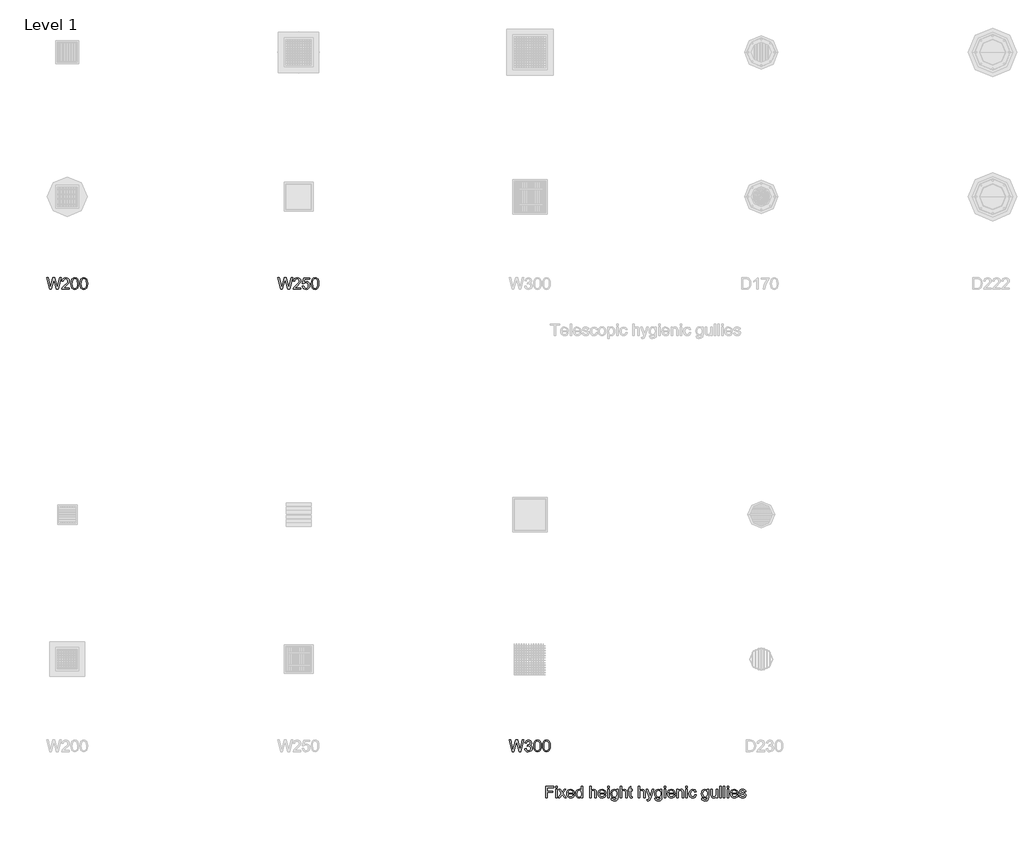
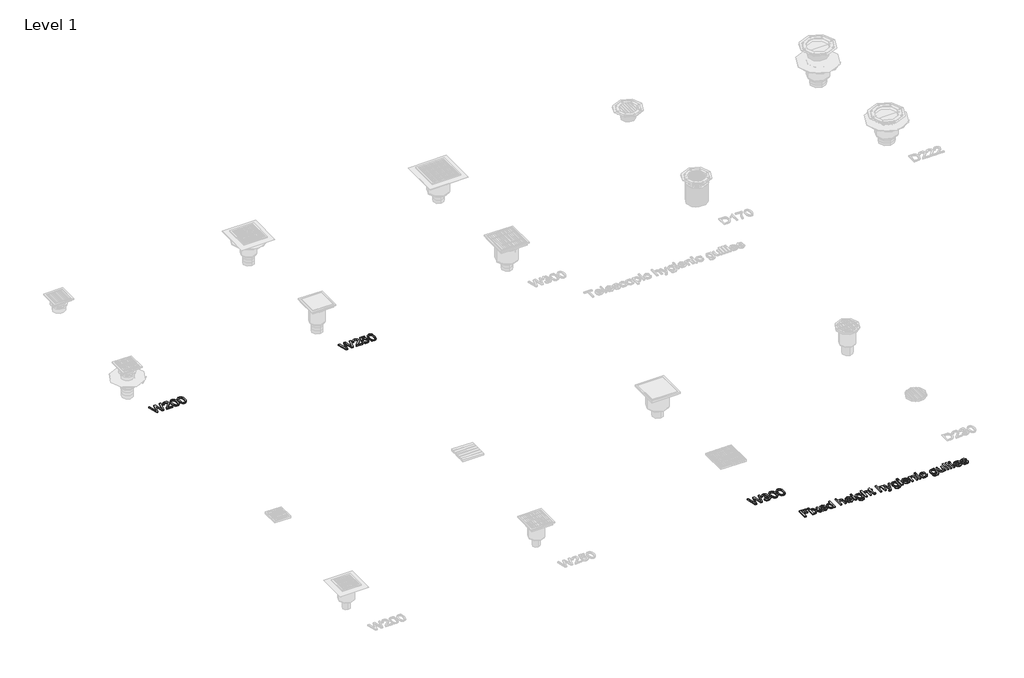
# One storey, part 2 of 4: 4 proxies.
"""IFC4 building model written with IfcOpenShell, lengths in millimetres."""

from ifc_helpers import new_model, si_unit, origin, origin_with_axes, place, context, project, spatial, polyline, outline, extrude, element, save

model = new_model("IFC4")

# Units and contexts
model_context = context("Model", 3, world=origin())
ifc_project = project(units=[si_unit("LENGTHUNIT", "METRE", prefix="MILLI")], contexts=[model_context])

# Site, building, storey
site = spatial("IfcSite", under=ifc_project)
building = spatial("IfcBuilding", under=site)
storey = spatial("IfcBuildingStorey", under=building, Name="Level 1", Elevation=0.0)

# Proxies
placement = place(None, origin())
element("IfcBuildingElementProxy", 1, Name="100mm ACO", ObjectType="100mm ACO", at=placement, inside=storey, context=model_context, shape_type="SweptSolid", body=[
    extrude(outline(polyline([(204.6296296, -6911.1111111), (150.9259259, -6911.1111111), (150.9259259, -6942.5925926), (197.2222222, -6942.5925926), (197.2222222, -6953.7037037), (150.9259259, -6953.7037037), (150.9259259, -7000.0), (137.962963, -7000.0), (137.962963, -6900.0), (204.6296296, -6900.0), (204.6296296, -6911.1111111)])), origin_with_axes(), (0.0, 0.0, 1.0), 10.0),
    extrude(outline(polyline([(234.2592593, -7000.0), (221.2962963, -7000.0), (221.2962963, -6927.7777778), (234.2592593, -6927.7777778), (234.2592593, -7000.0)])), origin_with_axes(), (0.0, 0.0, 1.0), 10.0),
    extrude(outline(polyline([(234.2592593, -6912.962963), (221.2962963, -6912.962963), (221.2962963, -6900.0), (234.2592593, -6900.0), (234.2592593, -6912.962963)])), origin_with_axes(), (0.0, 0.0, 1.0), 10.0),
    extrude(outline(polyline([(312.037037, -7000.0), (298.9872685, -7000.0), (278.7326389, -6971.7013889), (258.4780093, -7000.0), (245.3703704, -7000.0), (272.1354167, -6962.5868056), (247.2222222, -6927.7777778), (260.2719907, -6927.7777778), (278.6747685, -6953.443287), (297.0486111, -6927.7777778), (310.1851852, -6927.7777778), (285.2430556, -6962.6157407), (312.037037, -7000.0)])), origin_with_axes(), (0.0, 0.0, 1.0), 10.0),
    extrude(outline(polyline([(384.2592593, -6966.6666667), (330.5555556, -6966.6666667), (332.6280382, -6977.7922454), (337.3408565, -6985.9375), (344.1225405, -6990.9288194), (352.4016204, -6992.5925926), (364.0769676, -6988.9033565), (371.2962963, -6977.7777778), (384.2592593, -6979.2824074), (379.8828125, -6988.9033565), (372.9456019, -6996.0069444), (363.7008102, -7000.390625), (352.4016204, -7001.8518519), (337.8146701, -6999.3453414), (326.8084491, -6991.8258102), (319.8965567, -6979.9660012), (317.5925926, -6964.4386574), (319.8133681, -6948.900463), (326.4756944, -6936.6030093), (337.1744792, -6928.5951968), (351.5046296, -6925.9259259), (366.724537, -6929.3836806), (379.1521991, -6941.1603009), (382.9824942, -6951.6963252), (384.2592593, -6966.6666667)]), holes=[polyline([(371.2962963, -6957.4074074), (369.212963, -6947.2511574), (364.4675926, -6940.3935185), (351.1863426, -6935.1851852), (343.3304398, -6936.7332176), (337.0081019, -6941.3773148), (330.5555556, -6957.4074074), (371.2962963, -6957.4074074)])]), origin_with_axes(), (0.0, 0.0, 1.0), 10.0),
    extrude(outline(polyline([(458.3333333, -7000.0), (445.3703704, -7000.0), (445.3703704, -6991.8402778), (437.0153356, -6999.3489583), (425.6365741, -7001.8518519), (413.7695312, -6999.2115162), (404.0364583, -6991.2905093), (397.5368924, -6979.1594329), (395.3703704, -6963.8888889), (397.4464699, -6948.1481481), (403.6747685, -6936.1111111), (413.3101852, -6928.4722222), (425.6076389, -6925.9259259), (436.8923611, -6928.2118056), (445.1099537, -6935.0694444), (445.3703704, -6900.0), (458.3333333, -6900.0), (458.3333333, -7000.0)]), holes=[polyline([(427.1412037, -6992.5925926), (434.1941551, -6990.8854167), (440.0752315, -6985.7638889), (444.0465856, -6977.1701389), (445.3703704, -6965.0462963), (440.5237269, -6943.287037), (434.624566, -6937.2106481), (426.6203704, -6935.1851852), (418.6740451, -6937.1672454), (412.9484954, -6943.1134259), (408.3333333, -6963.9178241), (410.8217593, -6979.6730324), (417.7662037, -6989.3518519), (427.1412037, -6992.5925926)])]), origin_with_axes(), (0.0, 0.0, 1.0), 10.0),
    extrude(outline(polyline([(575.0, -7000.0), (562.037037, -7000.0), (562.037037, -6953.2986111), (558.3478009, -6939.7135417), (547.337963, -6935.1851852), (534.4039352, -6940.5237269), (530.1287616, -6947.9564525), (528.7037037, -6959.5775463), (528.7037037, -7000.0), (515.7407407, -7000.0), (515.7407407, -6900.0), (528.7037037, -6900.0), (528.7037037, -6935.8217593), (538.4042245, -6928.3998843), (550.2604167, -6925.9259259), (563.5416667, -6928.7905093), (572.4392361, -6937.6012731), (575.0, -6954.1087963), (575.0, -7000.0)])), origin_with_axes(), (0.0, 0.0, 1.0), 10.0),
    extrude(outline(polyline([(656.4814815, -6966.6666667), (602.7777778, -6966.6666667), (604.8502604, -6977.7922454), (609.5630787, -6985.9375), (616.3447627, -6990.9288194), (624.6238426, -6992.5925926), (636.2991898, -6988.9033565), (643.5185185, -6977.7777778), (656.4814815, -6979.2824074), (652.1050347, -6988.9033565), (645.1678241, -6996.0069444), (635.9230324, -7000.390625), (624.6238426, -7001.8518519), (610.0368924, -6999.3453414), (599.0306713, -6991.8258102), (592.1187789, -6979.9660012), (589.8148148, -6964.4386574), (592.0355903, -6948.900463), (598.6979167, -6936.6030093), (609.3967014, -6928.5951968), (623.7268519, -6925.9259259), (638.9467593, -6929.3836806), (651.3744213, -6941.1603009), (655.2047164, -6951.6963252), (656.4814815, -6966.6666667)]), holes=[polyline([(643.5185185, -6957.4074074), (641.4351852, -6947.2511574), (636.6898148, -6940.3935185), (623.4085648, -6935.1851852), (615.552662, -6936.7332176), (609.2303241, -6941.3773148), (602.7777778, -6957.4074074), (643.5185185, -6957.4074074)])]), origin_with_axes(), (0.0, 0.0, 1.0), 10.0),
    extrude(outline(polyline([(684.2592593, -7000.0), (671.2962963, -7000.0), (671.2962963, -6927.7777778), (684.2592593, -6927.7777778), (684.2592593, -7000.0)])), origin_with_axes(), (0.0, 0.0, 1.0), 10.0),
    extrude(outline(polyline([(684.2592593, -6912.962963), (671.2962963, -6912.962963), (671.2962963, -6900.0), (684.2592593, -6900.0), (684.2592593, -6912.962963)])), origin_with_axes(), (0.0, 0.0, 1.0), 10.0),
    extrude(outline(polyline([(762.037037, -6989.3518519), (758.984375, -7011.9936343), (748.119213, -7023.6255787), (729.4560185, -7027.7777778), (718.2400174, -7026.3708044), (709.0711806, -7022.1498843), (702.9622396, -7014.7243924), (700.9259259, -7003.7037037), (713.8888889, -7005.7581019), (718.4606481, -7015.3211806), (729.6585648, -7018.5185185), (742.96875, -7014.8292824), (748.1336806, -7005.8449074), (749.0740741, -6991.2326389), (740.2994792, -6997.8081597), (729.4849537, -7000.0), (717.0934606, -6997.3885995), (707.4074074, -6989.5543981), (701.1574074, -6977.7416088), (699.0740741, -6963.1944444), (701.0561343, -6948.5532407), (707.0023148, -6936.5740741), (716.4496528, -6928.587963), (728.9351852, -6925.9259259), (740.0101273, -6928.3058449), (748.8136574, -6935.4456019), (749.0740741, -6927.7777778), (762.037037, -6927.7777778), (762.037037, -6989.3518519)]), holes=[polyline([(731.4236111, -6990.7407407), (738.635706, -6989.134838), (744.994213, -6984.3171296), (749.4429977, -6975.7233796), (750.9259259, -6962.7893519), (749.5117187, -6951.0018808), (745.2690972, -6942.3177083), (738.9431424, -6936.968316), (731.2789352, -6935.1851852), (723.5568576, -6937.0117187), (717.4045139, -6942.4913194), (713.3789062, -6951.1465567), (712.037037, -6962.5), (713.4440104, -6975.2170139), (717.6649306, -6983.9699074), (723.9185475, -6989.0480324), (731.4236111, -6990.7407407)])]), origin_with_axes(), (0.0, 0.0, 1.0), 10.0),
    extrude(outline(polyline([(839.8148148, -7000.0), (826.8518519, -7000.0), (826.8518519, -6953.2986111), (823.1626157, -6939.7135417), (812.1527778, -6935.1851852), (799.21875, -6940.5237269), (794.9435764, -6947.9564525), (793.5185185, -6959.5775463), (793.5185185, -7000.0), (780.5555556, -7000.0), (780.5555556, -6900.0), (793.5185185, -6900.0), (793.5185185, -6935.8217593), (803.2190394, -6928.3998843), (815.0752315, -6925.9259259), (828.3564815, -6928.7905093), (837.2540509, -6937.6012731), (839.8148148, -6954.1087963), (839.8148148, -7000.0)])), origin_with_axes(), (0.0, 0.0, 1.0), 10.0),
    extrude(outline(polyline([(886.1111111, -7001.0127315), (877.025463, -7001.8518519), (865.4369213, -6998.9728009), (860.9953704, -6991.6666667), (860.1851852, -6979.3402778), (860.1851852, -6937.037037), (850.9259259, -6937.037037), (850.9259259, -6927.7777778), (860.1851852, -6927.7777778), (860.1851852, -6909.4328704), (873.1481481, -6901.8518519), (873.1481481, -6927.7777778), (884.2592593, -6927.7777778), (884.2592593, -6937.037037), (873.1481481, -6937.037037), (873.1481481, -6981.9444444), (874.1898148, -6990.162037), (879.4849537, -6992.5925926), (884.5196759, -6992.5925926), (886.1111111, -7001.0127315)])), origin_with_axes(), (0.0, 0.0, 1.0), 10.0),
    extrude(outline(polyline([(995.3703704, -7000.0), (982.4074074, -7000.0), (982.4074074, -6953.2986111), (978.7181713, -6939.7135417), (967.7083333, -6935.1851852), (954.7743056, -6940.5237269), (950.4991319, -6947.9564525), (949.0740741, -6959.5775463), (949.0740741, -7000.0), (936.1111111, -7000.0), (936.1111111, -6900.0), (949.0740741, -6900.0), (949.0740741, -6935.8217593), (958.7745949, -6928.3998843), (970.630787, -6925.9259259), (983.912037, -6928.7905093), (992.8096065, -6937.6012731), (995.3703704, -6954.1087963), (995.3703704, -7000.0)])), origin_with_axes(), (0.0, 0.0, 1.0), 10.0),
    extrude(outline(polyline([(1071.2962963, -6927.7777778), (1044.1261574, -7001.9386574), (1035.083912, -7021.2818287), (1028.9966725, -7026.1537905), (1020.775463, -7027.7777778), (1013.1944444, -7026.6203704), (1012.037037, -7016.6666667), (1018.5763889, -7018.5185185), (1027.4305556, -7014.5543981), (1033.3043981, -7001.0706019), (1006.4814815, -6927.7777778), (1018.2002315, -6927.7777778), (1035.8217593, -6973.8715278), (1039.1493056, -6984.8090278), (1044.068287, -6971.1226852), (1059.6064815, -6927.7777778), (1071.2962963, -6927.7777778)])), origin_with_axes(), (0.0, 0.0, 1.0), 10.0),
    extrude(outline(polyline([(1141.6666667, -6989.3518519), (1138.6140046, -7011.9936343), (1127.7488426, -7023.6255787), (1109.0856481, -7027.7777778), (1097.869647, -7026.3708044), (1088.7008102, -7022.1498843), (1082.5918692, -7014.7243924), (1080.5555556, -7003.7037037), (1093.5185185, -7005.7581019), (1098.0902778, -7015.3211806), (1109.2881944, -7018.5185185), (1122.5983796, -7014.8292824), (1127.7633102, -7005.8449074), (1128.7037037, -6991.2326389), (1119.9291088, -6997.8081597), (1109.1145833, -7000.0), (1096.7230903, -6997.3885995), (1087.037037, -6989.5543981), (1080.787037, -6977.7416088), (1078.7037037, -6963.1944444), (1080.6857639, -6948.5532407), (1086.6319444, -6936.5740741), (1096.0792824, -6928.587963), (1108.5648148, -6925.9259259), (1119.6397569, -6928.3058449), (1128.443287, -6935.4456019), (1128.7037037, -6927.7777778), (1141.6666667, -6927.7777778), (1141.6666667, -6989.3518519)]), holes=[polyline([(1111.0532407, -6990.7407407), (1118.2653356, -6989.134838), (1124.6238426, -6984.3171296), (1129.0726273, -6975.7233796), (1130.5555556, -6962.7893519), (1129.1413484, -6951.0018808), (1124.8987269, -6942.3177083), (1118.572772, -6936.968316), (1110.9085648, -6935.1851852), (1103.1864873, -6937.0117187), (1097.0341435, -6942.4913194), (1093.0085359, -6951.1465567), (1091.6666667, -6962.5), (1093.07364, -6975.2170139), (1097.2945602, -6983.9699074), (1103.5481771, -6989.0480324), (1111.0532407, -6990.7407407)])]), origin_with_axes(), (0.0, 0.0, 1.0), 10.0),
    extrude(outline(polyline([(1173.1481481, -7000.0), (1160.1851852, -7000.0), (1160.1851852, -6927.7777778), (1173.1481481, -6927.7777778), (1173.1481481, -7000.0)])), origin_with_axes(), (0.0, 0.0, 1.0), 10.0),
    extrude(outline(polyline([(1173.1481481, -6912.962963), (1160.1851852, -6912.962963), (1160.1851852, -6900.0), (1173.1481481, -6900.0), (1173.1481481, -6912.962963)])), origin_with_axes(), (0.0, 0.0, 1.0), 10.0),
    extrude(outline(polyline([(1254.6296296, -6966.6666667), (1200.9259259, -6966.6666667), (1202.9984086, -6977.7922454), (1207.7112269, -6985.9375), (1214.4929109, -6990.9288194), (1222.7719907, -6992.5925926), (1234.447338, -6988.9033565), (1241.6666667, -6977.7777778), (1254.6296296, -6979.2824074), (1250.2531829, -6988.9033565), (1243.3159722, -6996.0069444), (1234.0711806, -7000.390625), (1222.7719907, -7001.8518519), (1208.1850405, -6999.3453414), (1197.1788194, -6991.8258102), (1190.2669271, -6979.9660012), (1187.962963, -6964.4386574), (1190.1837384, -6948.900463), (1196.8460648, -6936.6030093), (1207.5448495, -6928.5951968), (1221.875, -6925.9259259), (1237.0949074, -6929.3836806), (1249.5225694, -6941.1603009), (1253.3528646, -6951.6963252), (1254.6296296, -6966.6666667)]), holes=[polyline([(1241.6666667, -6957.4074074), (1239.5833333, -6947.2511574), (1234.837963, -6940.3935185), (1221.556713, -6935.1851852), (1213.7008102, -6936.7332176), (1207.3784722, -6941.3773148), (1200.9259259, -6957.4074074), (1241.6666667, -6957.4074074)])]), origin_with_axes(), (0.0, 0.0, 1.0), 10.0),
    extrude(outline(polyline([(1328.7037037, -7000.0), (1315.7407407, -7000.0), (1315.7407407, -6955.0347222), (1311.8778935, -6939.4386574), (1301.1284722, -6935.1851852), (1291.1024306, -6937.9050926), (1284.3894676, -6945.5729167), (1282.4074074, -6959.5775463), (1282.4074074, -7000.0), (1269.4444444, -7000.0), (1269.4444444, -6927.7777778), (1280.5555556, -6927.7777778), (1280.5555556, -6937.818287), (1290.4513889, -6928.8917824), (1303.7037037, -6925.9259259), (1315.0752315, -6927.9803241), (1323.8715278, -6934.1290509), (1327.8790509, -6942.8674769), (1328.7037037, -6955.4108796), (1328.7037037, -7000.0)])), origin_with_axes(), (0.0, 0.0, 1.0), 10.0),
    extrude(outline(polyline([(1360.1851852, -7000.0), (1347.2222222, -7000.0), (1347.2222222, -6927.7777778), (1360.1851852, -6927.7777778), (1360.1851852, -7000.0)])), origin_with_axes(), (0.0, 0.0, 1.0), 10.0),
    extrude(outline(polyline([(1360.1851852, -6912.962963), (1347.2222222, -6912.962963), (1347.2222222, -6900.0), (1360.1851852, -6900.0), (1360.1851852, -6912.962963)])), origin_with_axes(), (0.0, 0.0, 1.0), 10.0),
    extrude(outline(polyline([(1439.8148148, -6975.5497685), (1435.7855903, -6987.3553241), (1428.6168981, -6995.5150463), (1419.2925347, -7000.2676505), (1408.7962963, -7001.8518519), (1394.4806134, -6999.2621528), (1383.8252315, -6991.4930556), (1377.2063079, -6979.4487847), (1375.0, -6964.0335648), (1380.0347222, -6941.3483796), (1392.6359954, -6929.3836806), (1408.5358796, -6925.9259259), (1427.9947917, -6931.5827546), (1434.5305266, -6938.566985), (1437.962963, -6948.2060185), (1425.0, -6950.0), (1419.0972222, -6938.9033565), (1408.6805556, -6935.1851852), (1399.7251157, -6937.0695891), (1393.2291667, -6942.7228009), (1389.2795139, -6951.7541956), (1387.962963, -6963.7731481), (1389.2831308, -6976.0018808), (1393.2436343, -6985.083912), (1399.6925637, -6990.7154225), (1408.4780093, -6992.5925926), (1421.0792824, -6987.962963), (1426.8518519, -6974.0740741), (1439.8148148, -6975.5497685)])), origin_with_axes(), (0.0, 0.0, 1.0), 10.0),
    extrude(outline(polyline([(1545.3703704, -6989.3518519), (1542.3177083, -7011.9936343), (1531.4525463, -7023.6255787), (1512.7893519, -7027.7777778), (1501.5733507, -7026.3708044), (1492.4045139, -7022.1498843), (1486.2955729, -7014.7243924), (1484.2592593, -7003.7037037), (1497.2222222, -7005.7581019), (1501.7939815, -7015.3211806), (1512.9918981, -7018.5185185), (1526.3020833, -7014.8292824), (1531.4670139, -7005.8449074), (1532.4074074, -6991.2326389), (1523.6328125, -6997.8081597), (1512.818287, -7000.0), (1500.426794, -6997.3885995), (1490.7407407, -6989.5543981), (1484.4907407, -6977.7416088), (1482.4074074, -6963.1944444), (1484.3894676, -6948.5532407), (1490.3356481, -6936.5740741), (1499.7829861, -6928.587963), (1512.2685185, -6925.9259259), (1523.3434606, -6928.3058449), (1532.1469907, -6935.4456019), (1532.4074074, -6927.7777778), (1545.3703704, -6927.7777778), (1545.3703704, -6989.3518519)]), holes=[polyline([(1514.7569444, -6990.7407407), (1521.9690394, -6989.134838), (1528.3275463, -6984.3171296), (1532.776331, -6975.7233796), (1534.2592593, -6962.7893519), (1532.8450521, -6951.0018808), (1528.6024306, -6942.3177083), (1522.2764757, -6936.968316), (1514.6122685, -6935.1851852), (1506.890191, -6937.0117187), (1500.7378472, -6942.4913194), (1496.7122396, -6951.1465567), (1495.3703704, -6962.5), (1496.7773437, -6975.2170139), (1500.9982639, -6983.9699074), (1507.2518808, -6989.0480324), (1514.7569444, -6990.7407407)])]), origin_with_axes(), (0.0, 0.0, 1.0), 10.0),
    extrude(outline(polyline([(1623.1481481, -7000.0), (1612.037037, -7000.0), (1612.037037, -6989.4965278), (1601.7939815, -6998.7630208), (1588.8310185, -7001.8518519), (1574.7106481, -6998.3362269), (1566.0590278, -6988.6574074), (1563.8888889, -6972.65625), (1563.8888889, -6927.7777778), (1576.8518519, -6927.7777778), (1576.8518519, -6968.75), (1577.7488426, -6982.8414352), (1582.4363426, -6989.84375), (1591.4641204, -6992.5925926), (1604.2100694, -6987.6736111), (1608.6914062, -6980.1215278), (1610.1851852, -6967.3032407), (1610.1851852, -6927.7777778), (1623.1481481, -6927.7777778), (1623.1481481, -7000.0)])), origin_with_axes(), (0.0, 0.0, 1.0), 10.0),
    extrude(outline(polyline([(1654.6296296, -7000.0), (1641.6666667, -7000.0), (1641.6666667, -6900.0), (1654.6296296, -6900.0), (1654.6296296, -7000.0)])), origin_with_axes(), (0.0, 0.0, 1.0), 10.0),
    extrude(outline(polyline([(1686.1111111, -7000.0), (1673.1481481, -7000.0), (1673.1481481, -6900.0), (1686.1111111, -6900.0), (1686.1111111, -7000.0)])), origin_with_axes(), (0.0, 0.0, 1.0), 10.0),
    extrude(outline(polyline([(1717.5925926, -6912.962963), (1704.6296296, -6912.962963), (1704.6296296, -6900.0), (1717.5925926, -6900.0), (1717.5925926, -6912.962963)])), origin_with_axes(), (0.0, 0.0, 1.0), 10.0),
    extrude(outline(polyline([(1717.5925926, -7000.0), (1704.6296296, -7000.0), (1704.6296296, -6927.7777778), (1717.5925926, -6927.7777778), (1717.5925926, -7000.0)])), origin_with_axes(), (0.0, 0.0, 1.0), 10.0),
    extrude(outline(polyline([(1799.0740741, -6966.6666667), (1745.3703704, -6966.6666667), (1747.442853, -6977.7922454), (1752.1556713, -6985.9375), (1758.9373553, -6990.9288194), (1767.2164352, -6992.5925926), (1778.8917824, -6988.9033565), (1786.1111111, -6977.7777778), (1799.0740741, -6979.2824074), (1794.6976273, -6988.9033565), (1787.7604167, -6996.0069444), (1778.515625, -7000.390625), (1767.2164352, -7001.8518519), (1752.629485, -6999.3453414), (1741.6232639, -6991.8258102), (1734.7113715, -6979.9660012), (1732.4074074, -6964.4386574), (1734.6281829, -6948.900463), (1741.2905093, -6936.6030093), (1751.989294, -6928.5951968), (1766.3194444, -6925.9259259), (1781.5393519, -6929.3836806), (1793.9670139, -6941.1603009), (1797.797309, -6951.6963252), (1799.0740741, -6966.6666667)]), holes=[polyline([(1786.1111111, -6957.4074074), (1784.0277778, -6947.2511574), (1779.2824074, -6940.3935185), (1766.0011574, -6935.1851852), (1758.1452546, -6936.7332176), (1751.8229167, -6941.3773148), (1745.3703704, -6957.4074074), (1786.1111111, -6957.4074074)])]), origin_with_axes(), (0.0, 0.0, 1.0), 10.0),
    extrude(outline(polyline([(1854.6296296, -6948.1481481), (1849.8408565, -6938.4259259), (1838.7731481, -6935.1851852), (1827.4594907, -6937.962963), (1823.1481481, -6946.0358796), (1825.9982639, -6953.1828704), (1839.4386574, -6957.0601852), (1857.1614583, -6961.2268519), (1866.2037037, -6967.5491898), (1869.4444444, -6978.8773148), (1867.4334491, -6987.8074363), (1861.400463, -6995.2112269), (1852.0037616, -7000.1916956), (1839.9016204, -7001.8518519), (1827.4269387, -7000.4557292), (1818.0121528, -6996.2673611), (1811.6500289, -6989.2939815), (1808.3333333, -6979.5428241), (1821.2962963, -6977.7777778), (1826.8952546, -6988.9033565), (1839.9016204, -6992.5925926), (1852.1990741, -6988.7586806), (1856.4814815, -6979.4270833), (1854.5572917, -6973.4519676), (1849.7540509, -6970.0810185), (1836.1689815, -6967.1875), (1815.234375, -6959.375), (1810.1851852, -6946.7881944), (1812.0551215, -6938.5018808), (1817.6649306, -6931.8142361), (1826.4359086, -6927.3980035), (1837.7893519, -6925.9259259), (1849.7214988, -6927.2135417), (1858.666088, -6931.0763889), (1864.6231192, -6937.5072338), (1867.5925926, -6946.4988426), (1854.6296296, -6948.1481481)])), origin_with_axes(), (0.0, 0.0, 1.0), 10.0),
])
element("IfcBuildingElementProxy", 2, Name="100mm ACO", ObjectType="100mm ACO", at=placement, inside=storey, context=model_context, shape_type="SweptSolid", body=[
    extrude(outline(polyline([(-51.8518519, -6500.0), (-78.0092593, -6600.0), (-93.8657407, -6600.0), (-113.744213, -6521.1516204), (-115.7407407, -6511.9502315), (-118.75, -6523.8136574), (-139.6990741, -6600.0), (-153.587963, -6600.0), (-179.6296296, -6500.0), (-166.3194444, -6500.0), (-151.1863426, -6565.6828704), (-147.3668981, -6584.6643519), (-142.7083333, -6567.505787), (-123.8425926, -6500.0), (-107.494213, -6500.0), (-93.8078704, -6550.6076389), (-86.3715278, -6586.1111111), (-81.25, -6564.3229167), (-65.2199074, -6500.0), (-51.8518519, -6500.0)])), origin_with_axes(), (0.0, 0.0, 1.0), 10.0),
    extrude(outline(polyline([(1.1863426, -6546.3975694), (9.516059, -6549.6346933), (15.5237269, -6555.4253472), (20.3703704, -6570.9490741), (17.8457755, -6583.2573785), (10.2719907, -6593.1568287), (-0.817419, -6599.6780961), (-13.8888889, -6601.8518519), (-26.1682581, -6599.9348958), (-36.0966435, -6594.1840278), (-43.0230035, -6585.2864583), (-46.2962963, -6573.9293981), (-33.3333333, -6572.2222222), (-26.5046296, -6587.5144676), (-13.4548611, -6592.5925926), (-5.3855613, -6591.0662616), (1.3454861, -6586.4872685), (5.8919271, -6579.6947338), (7.4074074, -6571.5277778), (5.9859664, -6563.7695312), (1.7216435, -6557.4508102), (-4.8357928, -6553.2515914), (-13.1365741, -6551.8518519), (-22.2222222, -6553.7037037), (-20.775463, -6542.5925926), (-12.9050926, -6542.1006944), (-6.4236111, -6539.6990741), (-0.4918981, -6534.2303241), (1.8518519, -6525.4050926), (-2.9369213, -6513.4837963), (-14.0335648, -6509.2592593), (-25.7667824, -6514.0625), (-31.4814815, -6527.7777778), (-44.4444444, -6525.5497685), (-40.6069155, -6514.3627025), (-33.8975694, -6506.3802083), (-24.9529803, -6501.5950521), (-14.4097222, -6500.0), (-2.9441551, -6501.8916377), (6.4525463, -6507.5665509), (12.7242477, -6515.9758391), (14.8148148, -6526.0706019), (11.4076968, -6538.1365741), (1.1863426, -6546.3975694)])), origin_with_axes(), (0.0, 0.0, 1.0), 10.0),
    extrude(outline(polyline([(64.7858796, -6500.0), (79.3818721, -6503.1864873), (89.807581, -6512.7459491), (96.0630064, -6528.6783854), (98.1481481, -6550.9837963), (95.9924769, -6573.4555845), (89.525463, -6589.3084491), (79.0292245, -6598.7160012), (64.7858796, -6601.8518519), (50.2152054, -6598.6725984), (39.807581, -6589.134838), (33.5630064, -6573.2385706), (31.4814815, -6550.9837963), (33.6371528, -6528.515625), (40.1041667, -6512.6157407), (50.5859375, -6503.1539352), (64.7858796, -6500.0)]), holes=[polyline([(64.8148148, -6592.5925926), (73.6545139, -6590.1584201), (80.0347222, -6582.8559028), (83.8975694, -6570.0195312), (85.1851852, -6550.9837963), (82.9282407, -6526.7650463), (76.1140046, -6513.599537), (64.6701389, -6509.2592593), (55.8485243, -6511.7368345), (49.5225694, -6519.1695602), (45.7139757, -6532.0782697), (44.4444444, -6550.9837963), (46.7447917, -6575.0434028), (53.5590278, -6588.2523148), (64.8148148, -6592.5925926)])]), origin_with_axes(), (0.0, 0.0, 1.0), 10.0),
    extrude(outline(polyline([(142.5636574, -6500.0), (157.1596499, -6503.1864873), (167.5853588, -6512.7459491), (173.8407841, -6528.6783854), (175.9259259, -6550.9837963), (173.7702546, -6573.4555845), (167.3032407, -6589.3084491), (156.8070023, -6598.7160012), (142.5636574, -6601.8518519), (127.9929832, -6598.6725984), (117.5853588, -6589.134838), (111.3407841, -6573.2385706), (109.2592593, -6550.9837963), (111.4149306, -6528.515625), (117.8819444, -6512.6157407), (128.3637153, -6503.1539352), (142.5636574, -6500.0)]), holes=[polyline([(142.5925926, -6592.5925926), (151.4322917, -6590.1584201), (157.8125, -6582.8559028), (161.6753472, -6570.0195312), (162.962963, -6550.9837963), (160.7060185, -6526.7650463), (153.8917824, -6513.599537), (142.4479167, -6509.2592593), (133.6263021, -6511.7368345), (127.3003472, -6519.1695602), (123.4917535, -6532.0782697), (122.2222222, -6550.9837963), (124.5225694, -6575.0434028), (131.3368056, -6588.2523148), (142.5925926, -6592.5925926)])]), origin_with_axes(), (0.0, 0.0, 1.0), 10.0),
])
element("IfcBuildingElementProxy", 3, Name="100mm ACO", ObjectType="100mm ACO", at=placement, inside=storey, context=model_context, shape_type="SweptSolid", body=[
    extrude(outline(polyline([(-4051.8518519, -2500.0), (-4078.0092593, -2600.0), (-4093.8657407, -2600.0), (-4113.744213, -2521.1516204), (-4115.7407407, -2511.9502315), (-4118.75, -2523.8136574), (-4139.6990741, -2600.0), (-4153.587963, -2600.0), (-4179.6296296, -2500.0), (-4166.3194444, -2500.0), (-4151.1863426, -2565.6828704), (-4147.3668981, -2584.6643519), (-4142.7083333, -2567.505787), (-4123.8425926, -2500.0), (-4107.494213, -2500.0), (-4093.8078704, -2550.6076389), (-4086.3715278, -2586.1111111), (-4081.25, -2564.3229167), (-4065.2199074, -2500.0), (-4051.8518519, -2500.0)])), origin_with_axes(), (0.0, 0.0, 1.0), 10.0),
    extrude(outline(polyline([(-3981.4814815, -2600.0), (-4048.1481481, -2600.0), (-4042.1875, -2584.4039352), (-4020.1678241, -2562.7893519), (-4002.4016204, -2545.4571759), (-3996.4337384, -2536.4293981), (-3994.4444444, -2527.34375), (-3999.8697917, -2514.380787), (-4013.5706019, -2509.2592593), (-4027.6041667, -2514.3663194), (-4031.8721065, -2520.7356771), (-4033.3333333, -2529.6296296), (-4046.2962963, -2528.2407407), (-4043.1568287, -2516.1385995), (-4036.1111111, -2507.2627315), (-4025.8969907, -2501.8156829), (-4013.2523148, -2500.0), (-3999.89511, -2502.0869502), (-3989.8582176, -2508.3478009), (-3983.5756655, -2517.5600405), (-3981.4814815, -2528.5011574), (-3983.2320602, -2538.4042245), (-3988.4837963, -2548.4375), (-4015.9143519, -2575.9548611), (-4031.4814815, -2590.7407407), (-3981.4814815, -2590.7407407), (-3981.4814815, -2600.0)])), origin_with_axes(), (0.0, 0.0, 1.0), 10.0),
    extrude(outline(polyline([(-3935.2141204, -2500.0), (-3920.6181279, -2503.1864873), (-3910.192419, -2512.7459491), (-3903.9369936, -2528.6783854), (-3901.8518519, -2550.9837963), (-3904.0075231, -2573.4555845), (-3910.474537, -2589.3084491), (-3920.9707755, -2598.7160012), (-3935.2141204, -2601.8518519), (-3949.7847946, -2598.6725984), (-3960.192419, -2589.134838), (-3966.4369936, -2573.2385706), (-3968.5185185, -2550.9837963), (-3966.3628472, -2528.515625), (-3959.8958333, -2512.6157407), (-3949.4140625, -2503.1539352), (-3935.2141204, -2500.0)]), holes=[polyline([(-3935.1851852, -2592.5925926), (-3926.3454861, -2590.1584201), (-3919.9652778, -2582.8559028), (-3916.1024306, -2570.0195312), (-3914.8148148, -2550.9837963), (-3917.0717593, -2526.7650463), (-3923.8859954, -2513.599537), (-3935.3298611, -2509.2592593), (-3944.1514757, -2511.7368345), (-3950.4774306, -2519.1695602), (-3954.2860243, -2532.0782697), (-3955.5555556, -2550.9837963), (-3953.2552083, -2575.0434028), (-3946.4409722, -2588.2523148), (-3935.1851852, -2592.5925926)])]), origin_with_axes(), (0.0, 0.0, 1.0), 10.0),
    extrude(outline(polyline([(-3857.4363426, -2500.0), (-3842.8403501, -2503.1864873), (-3832.4146412, -2512.7459491), (-3826.1592159, -2528.6783854), (-3824.0740741, -2550.9837963), (-3826.2297454, -2573.4555845), (-3832.6967593, -2589.3084491), (-3843.1929977, -2598.7160012), (-3857.4363426, -2601.8518519), (-3872.0070168, -2598.6725984), (-3882.4146412, -2589.134838), (-3888.6592159, -2573.2385706), (-3890.7407407, -2550.9837963), (-3888.5850694, -2528.515625), (-3882.1180556, -2512.6157407), (-3871.6362847, -2503.1539352), (-3857.4363426, -2500.0)]), holes=[polyline([(-3857.4074074, -2592.5925926), (-3848.5677083, -2590.1584201), (-3842.1875, -2582.8559028), (-3838.3246528, -2570.0195312), (-3837.037037, -2550.9837963), (-3839.2939815, -2526.7650463), (-3846.1082176, -2513.599537), (-3857.5520833, -2509.2592593), (-3866.3736979, -2511.7368345), (-3872.6996528, -2519.1695602), (-3876.5082465, -2532.0782697), (-3877.7777778, -2550.9837963), (-3875.4774306, -2575.0434028), (-3868.6631944, -2588.2523148), (-3857.4074074, -2592.5925926)])]), origin_with_axes(), (0.0, 0.0, 1.0), 10.0),
])
element("IfcBuildingElementProxy", 4, Name="100mm ACO", ObjectType="100mm ACO", at=placement, inside=storey, context=model_context, shape_type="SweptSolid", body=[
    extrude(outline(polyline([(-2051.8518519, -2500.0), (-2078.0092593, -2600.0), (-2093.8657407, -2600.0), (-2113.744213, -2521.1516204), (-2115.7407407, -2511.9502315), (-2118.75, -2523.8136574), (-2139.6990741, -2600.0), (-2153.587963, -2600.0), (-2179.6296296, -2500.0), (-2166.3194444, -2500.0), (-2151.1863426, -2565.6828704), (-2147.3668981, -2584.6643519), (-2142.7083333, -2567.505787), (-2123.8425926, -2500.0), (-2107.494213, -2500.0), (-2093.8078704, -2550.6076389), (-2086.3715278, -2586.1111111), (-2081.25, -2564.3229167), (-2065.2199074, -2500.0), (-2051.8518519, -2500.0)])), origin_with_axes(), (0.0, 0.0, 1.0), 10.0),
    extrude(outline(polyline([(-1981.4814815, -2600.0), (-2048.1481481, -2600.0), (-2042.1875, -2584.4039352), (-2020.1678241, -2562.7893519), (-2002.4016204, -2545.4571759), (-1996.4337384, -2536.4293981), (-1994.4444444, -2527.34375), (-1999.8697917, -2514.380787), (-2013.5706019, -2509.2592593), (-2027.6041667, -2514.3663194), (-2031.8721065, -2520.7356771), (-2033.3333333, -2529.6296296), (-2046.2962963, -2528.2407407), (-2043.1568287, -2516.1385995), (-2036.1111111, -2507.2627315), (-2025.8969907, -2501.8156829), (-2013.2523148, -2500.0), (-1999.89511, -2502.0869502), (-1989.8582176, -2508.3478009), (-1983.5756655, -2517.5600405), (-1981.4814815, -2528.5011574), (-1983.2320602, -2538.4042245), (-1988.4837963, -2548.4375), (-2015.9143519, -2575.9548611), (-2031.4814815, -2590.7407407), (-1981.4814815, -2590.7407407), (-1981.4814815, -2600.0)])), origin_with_axes(), (0.0, 0.0, 1.0), 10.0),
    extrude(outline(polyline([(-1951.0416667, -2537.8761574), (-1932.3784722, -2533.3333333), (-1920.8948206, -2535.5577257), (-1910.9809028, -2542.2309028), (-1904.1341146, -2552.6077836), (-1901.8518519, -2565.943287), (-1904.2209201, -2579.7815394), (-1911.328125, -2591.3773148), (-1922.2764757, -2599.2332176), (-1936.1689815, -2601.8518519), (-1947.9094329, -2600.0434028), (-1957.9571759, -2594.6180556), (-1965.198206, -2585.6481481), (-1968.5185185, -2573.2060185), (-1955.5555556, -2572.2222222), (-1948.7847222, -2587.5434028), (-1936.0243056, -2592.5925926), (-1927.4594907, -2590.7190394), (-1920.6886574, -2585.0983796), (-1916.2832755, -2576.7361111), (-1914.8148148, -2566.6377315), (-1916.2868924, -2556.6695602), (-1920.703125, -2549.0451389), (-1927.4341725, -2544.2057292), (-1935.8506944, -2542.5925926), (-1946.1877894, -2544.9435764), (-1953.8194444, -2551.9965278), (-1966.6666667, -2550.4918981), (-1956.9733796, -2501.8518519), (-1905.5555556, -2501.8518519), (-1905.5555556, -2511.1111111), (-1945.6886574, -2511.1111111), (-1951.0416667, -2537.8761574)])), origin_with_axes(), (0.0, 0.0, 1.0), 10.0),
    extrude(outline(polyline([(-1857.4363426, -2500.0), (-1842.8403501, -2503.1864873), (-1832.4146412, -2512.7459491), (-1826.1592159, -2528.6783854), (-1824.0740741, -2550.9837963), (-1826.2297454, -2573.4555845), (-1832.6967593, -2589.3084491), (-1843.1929977, -2598.7160012), (-1857.4363426, -2601.8518519), (-1872.0070168, -2598.6725984), (-1882.4146412, -2589.134838), (-1888.6592159, -2573.2385706), (-1890.7407407, -2550.9837963), (-1888.5850694, -2528.515625), (-1882.1180556, -2512.6157407), (-1871.6362847, -2503.1539352), (-1857.4363426, -2500.0)]), holes=[polyline([(-1857.4074074, -2592.5925926), (-1848.5677083, -2590.1584201), (-1842.1875, -2582.8559028), (-1838.3246528, -2570.0195312), (-1837.037037, -2550.9837963), (-1839.2939815, -2526.7650463), (-1846.1082176, -2513.599537), (-1857.5520833, -2509.2592593), (-1866.3736979, -2511.7368345), (-1872.6996528, -2519.1695602), (-1876.5082465, -2532.0782697), (-1877.7777778, -2550.9837963), (-1875.4774306, -2575.0434028), (-1868.6631944, -2588.2523148), (-1857.4074074, -2592.5925926)])]), origin_with_axes(), (0.0, 0.0, 1.0), 10.0),
])

save(model, "model.ifc")
